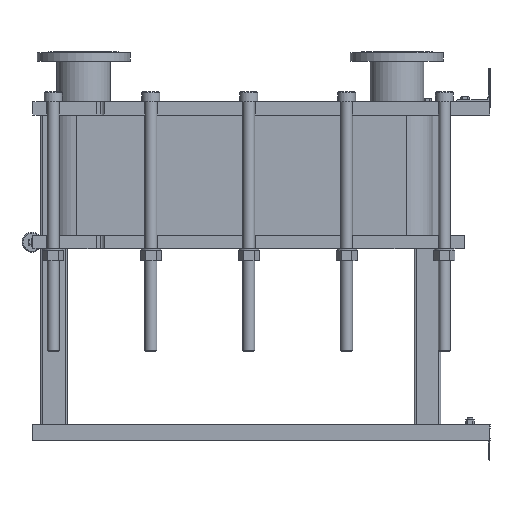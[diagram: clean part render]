
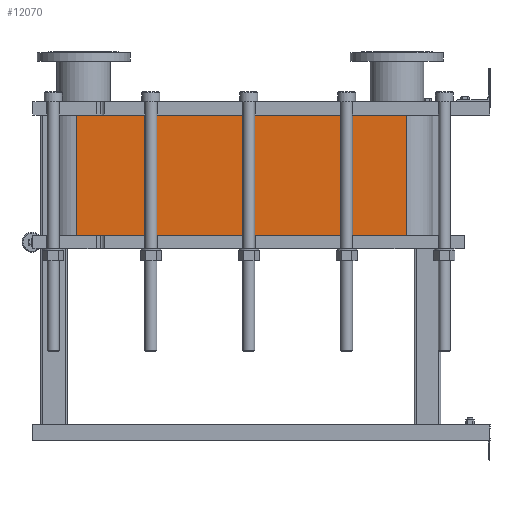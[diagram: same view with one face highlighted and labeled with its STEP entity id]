
A CAD part, left-side view. The second image highlights one B-rep face of the part: STEP entity #12070.
In plain terms, the highlighted planar face has unit normal (-1, 0, 0).
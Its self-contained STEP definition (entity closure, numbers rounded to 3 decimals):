
#1064=LINE('',#21140,#2164);
#1065=LINE('',#21144,#2165);
#1066=LINE('',#21146,#2166);
#1067=LINE('',#21147,#2167);
#2164=VECTOR('',#15790,10.);
#2165=VECTOR('',#15795,10.);
#2166=VECTOR('',#15796,10.);
#2167=VECTOR('',#15797,10.);
#3304=FACE_OUTER_BOUND('',#4091,.T.);
#4091=EDGE_LOOP('',(#9793,#9794,#9795,#9796));
#5677=VERTEX_POINT('',#21137);
#5678=VERTEX_POINT('',#21139);
#5679=VERTEX_POINT('',#21143);
#5680=VERTEX_POINT('',#21145);
#7118=EDGE_CURVE('',#5678,#5677,#1064,.T.);
#7120=EDGE_CURVE('',#5677,#5679,#1065,.T.);
#7121=EDGE_CURVE('',#5680,#5679,#1066,.T.);
#7122=EDGE_CURVE('',#5680,#5678,#1067,.T.);
#9793=ORIENTED_EDGE('',*,*,#7120,.T.);
#9794=ORIENTED_EDGE('',*,*,#7121,.F.);
#9795=ORIENTED_EDGE('',*,*,#7122,.T.);
#9796=ORIENTED_EDGE('',*,*,#7118,.T.);
#11441=PLANE('',#13191);
#12070=ADVANCED_FACE('',(#3304),#11441,.T.);
#13191=AXIS2_PLACEMENT_3D('',#21142,#15793,#15794);
#15790=DIRECTION('',(0.,0.,-1.));
#15793=DIRECTION('center_axis',(-1.,0.,0.));
#15794=DIRECTION('ref_axis',(0.,1.,0.));
#15795=DIRECTION('',(0.,-1.,0.));
#15796=DIRECTION('',(0.,0.,-1.));
#15797=DIRECTION('',(0.,1.,0.));
#21137=CARTESIAN_POINT('',(-248.152,1243.818,-362.25));
#21139=CARTESIAN_POINT('',(-248.152,1243.818,0.));
#21140=CARTESIAN_POINT('',(-248.152,1243.818,0.));
#21142=CARTESIAN_POINT('Origin',(-248.152,251.818,0.));
#21143=CARTESIAN_POINT('',(-248.152,251.818,-362.25));
#21144=CARTESIAN_POINT('',(-248.152,499.818,-362.25));
#21145=CARTESIAN_POINT('',(-248.152,251.818,0.));
#21146=CARTESIAN_POINT('',(-248.152,251.818,0.));
#21147=CARTESIAN_POINT('',(-248.152,251.818,0.));
